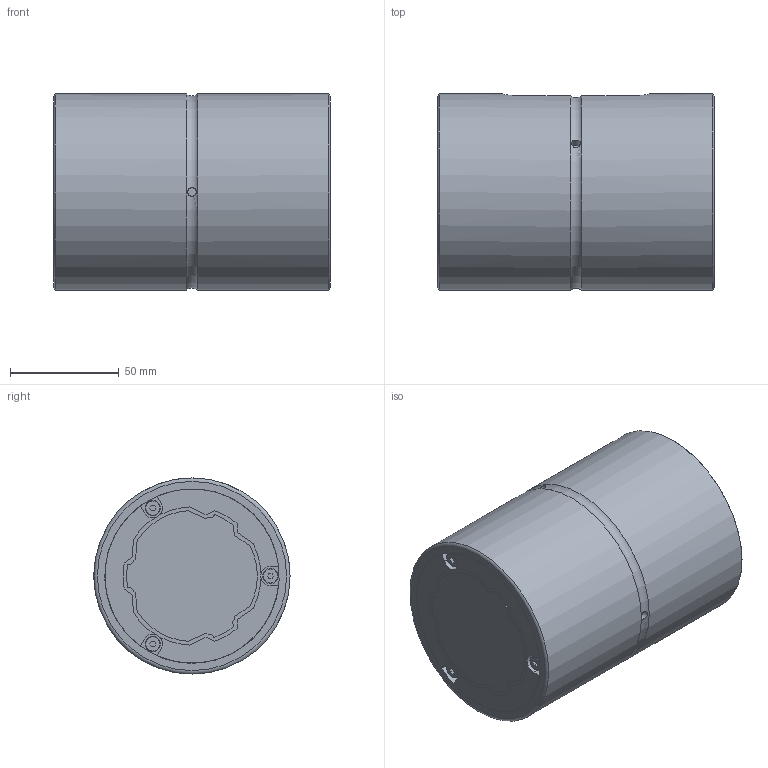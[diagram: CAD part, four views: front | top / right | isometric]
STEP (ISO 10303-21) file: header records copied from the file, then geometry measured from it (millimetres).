
FILE_DESCRIPTION(/* description */ ('STEP AP203'),/* implementation_level */ '2;1');
FILE_NAME(/* name */ 'SLS601127(00)',/* time_stamp */ '2024-05-23T11:47:06+02:00',/* author */ ('License CC BY-ND 4.0'),/* organization */ ('CADENAS'),/* preprocessor_version */ 'ST-DEVELOPER v19.3',/* originating_system */ 'PARTsolutions',/* authorisation */ ' ');
FILE_SCHEMA (('CONFIG_CONTROL_DESIGN'));
Length unit declared in the file: millimetre
Products named in the file (3): SLS601127(00); 60(X127); 60X cylinder
Assembly tree (2 placements, depth 2):
  SLS601127(00)
    60(X127)
    60X cylinder
Bounding box: 127 x 90 x 90 mm (x, y, z)
Volume: 798650.6 mm3; surface area: 100273.6 mm2
Topology: 2 solids, 2 shells, 240 faces, 652 edges, 433 vertices
Faces by surface type: plane 132, cylinder 99, torus 9
Full cylindrical faces by diameter (mm): 4 x3, 7 x6, 80 x2, 90 x2
Entity records: 7586 total; most frequent: CARTESIAN_POINT 1363, DIRECTION 1326, ORIENTED_EDGE 1248, EDGE_CURVE 624, AXIS2_PLACEMENT_3D 466, VERTEX_POINT 426, LINE 394, VECTOR 394
